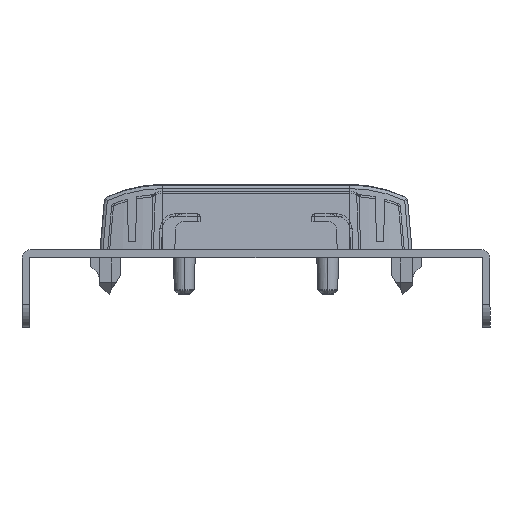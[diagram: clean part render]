
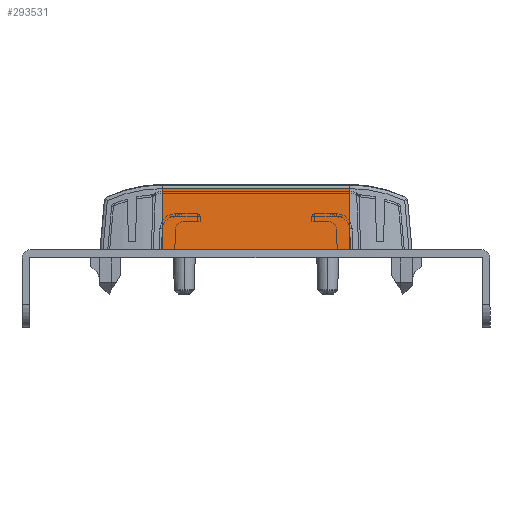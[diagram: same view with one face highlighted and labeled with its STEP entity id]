
A CAD part, left-side view. The second image highlights one B-rep face of the part: STEP entity #293531.
In plain terms, the highlighted planar face has unit normal (-0.996, 0, 0.087) as drawn and (0, -0.996, 0.087) by its records, which use the part's own axes.
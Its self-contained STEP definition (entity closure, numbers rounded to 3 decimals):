
#284606=CARTESIAN_POINT(' ',(-12.,-6.5,0.1));
#284607=VERTEX_POINT(' ',#284606);
#285071=CARTESIAN_POINT(' ',(12.,-6.5,0.1));
#285072=VERTEX_POINT(' ',#285071);
#285086=CARTESIAN_POINT(' ',(-12.,-6.5,0.1));
#285091=DIRECTION(' ',(1.,0.,0.));
#285096=VECTOR(' ',#285091,1.);
#285101=LINE('',#285086,#285096);
#285106=EDGE_CURVE(' ',#284607,#285072,#285101,.T.);
#285731=CARTESIAN_POINT(' ',(-12.,-5.814,7.944));
#285732=VERTEX_POINT(' ',#285731);
#285856=CARTESIAN_POINT(' ',(12.,-5.814,7.944));
#285857=VERTEX_POINT(' ',#285856);
#285881=CARTESIAN_POINT(' ',(12.,-5.814,7.944));
#285886=DIRECTION(' ',(-1.,0.,0.));
#285891=VECTOR(' ',#285886,1.);
#285896=LINE('',#285881,#285891);
#285901=EDGE_CURVE(' ',#285857,#285732,#285896,.T.);
#292766=CARTESIAN_POINT(' ',(-12.,-6.5,0.1));
#292771=DIRECTION(' ',(0.,0.087,0.996));
#292776=VECTOR(' ',#292771,1.);
#292781=LINE('',#292766,#292776);
#292786=EDGE_CURVE(' ',#284607,#285732,#292781,.T.);
#293426=CARTESIAN_POINT(' ',(12.,-5.814,7.944));
#293431=DIRECTION(' ',(0.,-0.087,-0.996));
#293436=VECTOR(' ',#293431,1.);
#293441=LINE('',#293426,#293436);
#293446=EDGE_CURVE(' ',#285857,#285072,#293441,.T.);
#293476=DIRECTION(' ',(0.,-0.996,0.087));
#293481=CARTESIAN_POINT(' ',(-12.,-5.814,7.944));
#293486=DIRECTION(' ',(0.,-0.087,-0.996));
#293491=AXIS2_PLACEMENT_3D(' ',#293481,#293476,#293486);
#293496=PLANE('',#293491);
#293501=ORIENTED_EDGE(' ',*,*,#293446,.F.);
#293506=ORIENTED_EDGE(' ',*,*,#285901,.T.);
#293511=ORIENTED_EDGE(' ',*,*,#292786,.F.);
#293516=ORIENTED_EDGE(' ',*,*,#285106,.T.);
#293521=EDGE_LOOP(' ',(#293501,#293506,#293511,#293516));
#293526=FACE_OUTER_BOUND(' ',#293521,.T.);
#293531=ADVANCED_FACE('',(#293526),#293496,.T.);
